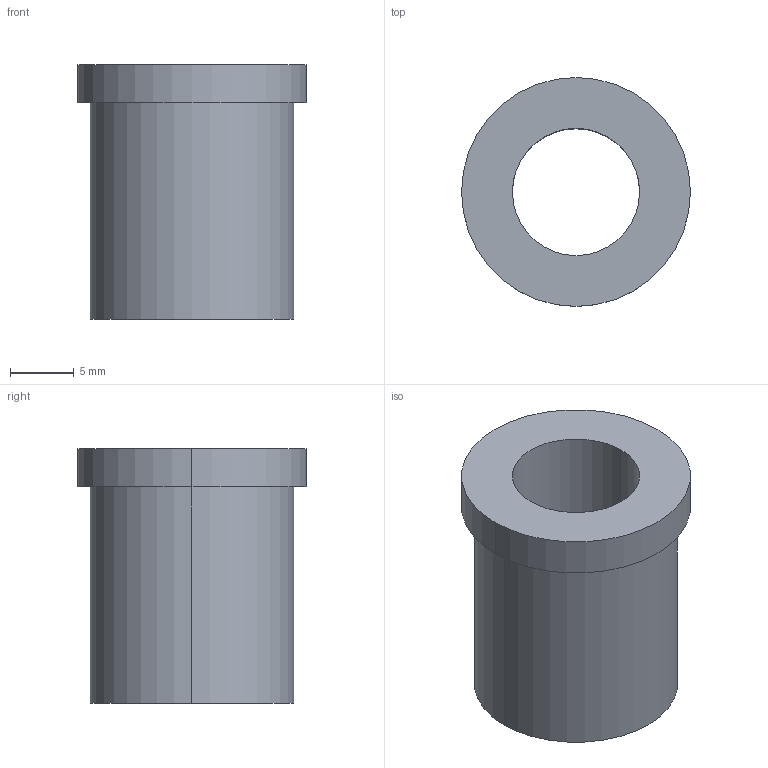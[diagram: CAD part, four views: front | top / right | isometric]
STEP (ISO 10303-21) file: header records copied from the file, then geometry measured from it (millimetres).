
FILE_DESCRIPTION(/* description */ (''),/* implementation_level */ '2;1');
FILE_NAME(/* name */ '3d_tgfz10-20_00387_r00.stp',/* time_stamp */ '2011-01-10T14:09:02+09:00',/* author */ ('MISUMI'),/* organization */ (''),/* preprocessor_version */ 'ST-DEVELOPER v11',/* originating_system */ 'UGS - NX 5.0',/* authorisation */ '');
FILE_SCHEMA (('CONFIG_CONTROL_DESIGN'));
Length unit declared in the file: millimetre
Products named in the file (1): 3d_tgfz10-20_00387_r00
Bounding box: 18 x 18 x 20 mm (x, y, z)
Volume: 2610.7 mm3; surface area: 2004.3 mm2
Topology: 1 solids, 1 shells, 9 faces, 18 edges, 12 vertices
Faces by surface type: cylinder 6, plane 3
Entity records: 334 total; most frequent: DIRECTION 50, CARTESIAN_POINT 40, ORIENTED_EDGE 36, AXIS2_PLACEMENT_3D 22, EDGE_CURVE 18, EDGE_LOOP 12, CIRCLE 12, VERTEX_POINT 12
